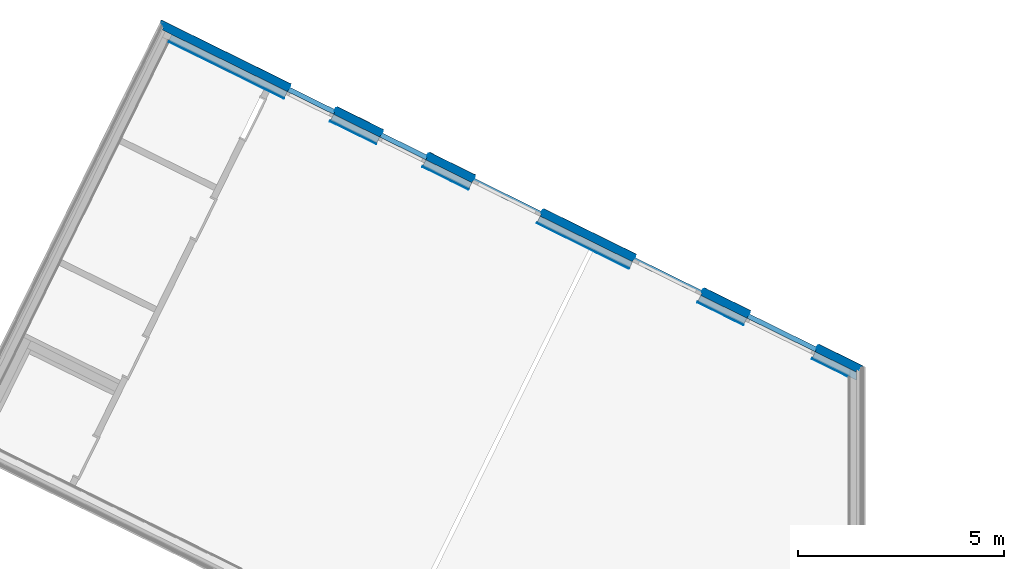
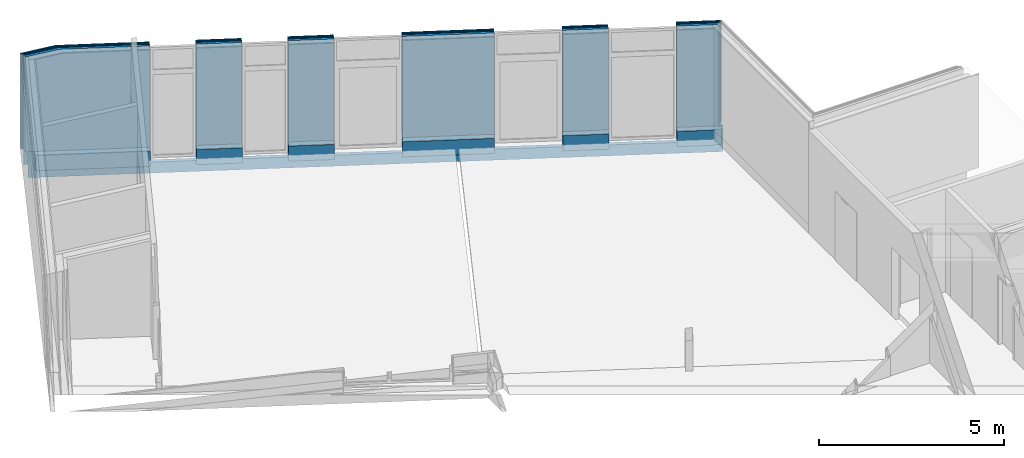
# One storey, part 6 of 23: 9 walls, 45 openings.
"""IFC4 building model written with IfcOpenShell, lengths in metres."""

import ifcopenshell
import ifcopenshell.guid

model = None  # the IFC model being written
_history = None  # IfcOwnerHistory: only IFC2X3 demands one
_inside = {}  # id of a spatial element -> (the spatial element, [elements in it])
_under = {}  # id of a project, library or spatial element -> (it, [spatial elements below it])
_declared = {}  # id of a project -> (the project, [libraries it declares])
_typed = {}  # id of a type object -> (the type object, [elements of that type])
_made_of = {}  # id of a material, layer set ... -> (it, [elements and type objects made of it])


def new_model(schema):
    """Start an empty IFC model of exactly this schema.

    Asked for "IFC4X3", IfcOpenShell would pick the latest addendum, in which some entities
    have other attributes; the version numbers below select the first issue.
    IFC2X3 requires an IfcOwnerHistory on every rooted entity: one is made here for all.
    """
    global model, _history
    if schema == "IFC4X3":
        model = ifcopenshell.file(schema_version=(4, 3, 0, 0))
    else:
        model = ifcopenshell.file(schema=schema)
    _inside.clear()
    _under.clear()
    _declared.clear()
    _typed.clear()
    _made_of.clear()
    _history = None
    if model.schema == "IFC2X3":
        org = make("IfcOrganization", Name="unknown")
        user = make(
            "IfcPersonAndOrganization",
            ThePerson=make("IfcPerson", FamilyName="unknown"),
            TheOrganization=org,
        )
        app = make(
            "IfcApplication",
            ApplicationDeveloper=org,
            Version="unknown",
            ApplicationFullName="unknown",
            ApplicationIdentifier="unknown",
        )
        _history = make(
            "IfcOwnerHistory",
            OwningUser=user,
            OwningApplication=app,
            ChangeAction="ADDED",
            CreationDate=0,
        )
    return model


def make(cls, **values):
    """One entity of the class cls with the attributes given. An attribute that is None is left unset."""
    return model.create_entity(
        cls, **{name: value for name, value in values.items() if value is not None}
    )


def entity(cls, *values):
    """Any entity or typed value of the class cls, its attributes in the order of the schema. None: left unset."""
    e = model.create_entity(cls)
    for i, value in enumerate(values):
        if value is not None:
            e[i] = value
    return e


def rooted(cls, **values):
    """An entity with a GlobalId (a new one), such as an element, a storey or a relation."""
    return make(cls, GlobalId=ifcopenshell.guid.new(), OwnerHistory=_history, **values)


def si_unit(unit_type, name, prefix=None):
    """IfcSIUnit, for example si_unit("LENGTHUNIT", "METRE", prefix="MILLI")."""
    return make("IfcSIUnit", UnitType=unit_type, Prefix=prefix, Name=name)


def converted_unit(unit_type, name, factor, base, dimensions=None, offset=None):
    """IfcConversionBasedUnit, such as the inch: factor (a typed value) times the base unit."""
    return make(
        "IfcConversionBasedUnit"
        if offset is None
        else "IfcConversionBasedUnitWithOffset",
        ConversionOffset=offset,
        Dimensions=None
        if dimensions is None
        else entity("IfcDimensionalExponents", *dimensions),
        UnitType=unit_type,
        Name=name,
        ConversionFactor=make(
            "IfcMeasureWithUnit", ValueComponent=factor, UnitComponent=base
        ),
    )


def derived_unit(unit_type, elements):
    """IfcDerivedUnit: a product of units, each with its exponent."""
    return make(
        "IfcDerivedUnit",
        Elements=[
            make("IfcDerivedUnitElement", Unit=unit, Exponent=power)
            for unit, power in elements
        ],
        UnitType=unit_type,
    )


def assignment(units):
    """IfcUnitAssignment: the units of a project."""
    return None if units is None else make("IfcUnitAssignment", Units=units)


def point(xyz):
    """IfcCartesianPoint."""
    return None if xyz is None else make("IfcCartesianPoint", Coordinates=xyz)


def direction(xyz):
    """IfcDirection."""
    return None if xyz is None else make("IfcDirection", DirectionRatios=xyz)


def frame(location, z_axis=None, x_axis=None):
    """IfcAxis2Placement3D, a coordinate frame: its origin and axes. An axis left out is left unset."""
    return make(
        "IfcAxis2Placement3D",
        Location=point(location),
        Axis=direction(z_axis),
        RefDirection=direction(x_axis),
    )


def origin():
    """The frame at (0, 0, 0) with its axes left unset."""
    return frame((0.0, 0.0, 0.0))


def origin_with_axes():
    """The frame at (0, 0, 0) with the z axis (0, 0, 1) and the x axis (1, 0, 0) written out."""
    return frame((0.0, 0.0, 0.0), z_axis=(0.0, 0.0, 1.0), x_axis=(1.0, 0.0, 0.0))


def place(relative_to, where):
    """IfcLocalPlacement: puts the frame where relative to a parent placement (None: the world)."""
    return make(
        "IfcLocalPlacement", PlacementRelTo=relative_to, RelativePlacement=where
    )


def context(
    kind, dimensions, precision=None, world=None, true_north=None, identifier=None
):
    """IfcGeometricRepresentationContext, for example the 3D "Model" context."""
    return make(
        "IfcGeometricRepresentationContext",
        ContextIdentifier=identifier,
        ContextType=kind,
        CoordinateSpaceDimension=dimensions,
        Precision=precision,
        WorldCoordinateSystem=world,
        TrueNorth=true_north,
    )


def subcontext(parent, identifier, kind, view, scale=None):
    """IfcGeometricRepresentationSubContext, for example "Body" below "Model"."""
    return make(
        "IfcGeometricRepresentationSubContext",
        ContextIdentifier=identifier,
        ContextType=kind,
        ParentContext=parent,
        TargetScale=scale,
        TargetView=view,
    )


def project(units=None, contexts=None):
    """IfcProject with its units and contexts."""
    return rooted(
        "IfcProject",
        Name="project",
        RepresentationContexts=contexts,
        UnitsInContext=assignment(units),
    )


def spatial(cls, under=None, at=None, **own):
    """A site, building, storey or space (cls), placed at a placement, below another one or the project."""
    s = rooted(cls, ObjectPlacement=at, **own)
    if under is not None:
        _under.setdefault(under.id(), (under, []))[1].append(s)
    return s


def polyline(points):
    """IfcPolyline through the points."""
    return make("IfcPolyline", Points=[point(p) for p in points])


def outline(outer, holes=None, kind="AREA"):
    """IfcArbitraryClosedProfileDef: a profile drawn as a closed curve; with holes, ...WithVoids."""
    if holes is None:
        return make("IfcArbitraryClosedProfileDef", ProfileType=kind, OuterCurve=outer)
    return make(
        "IfcArbitraryProfileDefWithVoids",
        ProfileType=kind,
        OuterCurve=outer,
        InnerCurves=holes,
    )


def extrude(swept, where, along, depth):
    """IfcExtrudedAreaSolid: the profile swept, set in the frame where, extruded along a direction by depth."""
    return make(
        "IfcExtrudedAreaSolid",
        SweptArea=swept,
        Position=where,
        ExtrudedDirection=direction(along),
        Depth=depth,
    )


def clip(a, b, op="DIFFERENCE"):
    """IfcBooleanClippingResult: the solid a cut by the half space b."""
    return make(
        "IfcBooleanClippingResult", Operator=op, FirstOperand=a, SecondOperand=b
    )


def bounded_halfspace(plane, agree, where, boundary):
    """IfcPolygonalBoundedHalfSpace: a half space limited to a polygon's prism."""
    return make(
        "IfcPolygonalBoundedHalfSpace",
        BaseSurface=make("IfcPlane", Position=plane),
        AgreementFlag=agree,
        Position=where,
        PolygonalBoundary=boundary,
    )


def shape(context_of_items, identifier, shape_type, items):
    """IfcShapeRepresentation: the items that make up one representation, for example the "Body"."""
    return make(
        "IfcShapeRepresentation",
        ContextOfItems=context_of_items,
        RepresentationIdentifier=identifier,
        RepresentationType=shape_type,
        Items=items,
    )


def material(Name=None, Category=None):
    """IfcMaterial."""
    return make("IfcMaterial", Name=Name, Category=Category)


def made_of(thing, what):
    """Note that an element or type object is made of a material, layer set ...; save() writes the relation."""
    if what is not None:
        _made_of.setdefault(what.id(), (what, []))[1].append(thing)
    return thing


def element(
    cls,
    number,
    at=None,
    inside=None,
    cuts=None,
    type_object=None,
    material=None,
    context=None,
    identifier="Body",
    shape_type=None,
    held_by="IfcProductDefinitionShape",
    body=None,
    shapes=None,
    **own,
):
    """One element of the class cls, such as IfcWall. Its Tag is "e" and its number.

    at: its placement. inside: the storey or other place that contains it. cuts: it is an
    opening in that element (IfcRelVoidsElement). A single representation is given by context,
    identifier, shape_type and body (its items); several are given by shapes. held_by: the class
    of the entity that holds the representations. save() writes the other relations.
    """
    e = rooted(cls, Tag="e%d" % number, ObjectPlacement=at, **own)
    if body is not None:
        shapes = [shape(context, identifier, shape_type, body)]
    if shapes is not None:
        e.Representation = make(held_by, Representations=shapes)
    if inside is not None:
        _inside.setdefault(inside.id(), (inside, []))[1].append(e)
    if cuts is not None:
        rooted(
            "IfcRelVoidsElement", RelatingBuildingElement=cuts, RelatedOpeningElement=e
        )
    if type_object is not None:
        _typed.setdefault(type_object.id(), (type_object, []))[1].append(e)
    return made_of(e, material)


def aggregate(whole, parts):
    """IfcRelAggregates: a whole, such as a stair, and the parts it consists of."""
    return rooted("IfcRelAggregates", RelatingObject=whole, RelatedObjects=parts)


def save(model, path):
    """Write the relations noted so far, then the file.

    IfcRelAggregates (storeys below a building ...), IfcRelContainedInSpatialStructure (elements
    in a storey), IfcRelDefinesByType, IfcRelAssociatesMaterial and IfcRelDeclares: one each for
    every whole, place, type object, material and project.
    """
    for whole, parts in _under.values():
        aggregate(whole, parts)
    for where, things in _inside.values():
        rooted(
            "IfcRelContainedInSpatialStructure",
            RelatedElements=things,
            RelatingStructure=where,
        )
    for kind, things in _typed.values():
        rooted("IfcRelDefinesByType", RelatedObjects=things, RelatingType=kind)
    for what, things in _made_of.values():
        rooted("IfcRelAssociatesMaterial", RelatedObjects=things, RelatingMaterial=what)
    for by, libraries in _declared.values():
        rooted("IfcRelDeclares", RelatingContext=by, RelatedDefinitions=libraries)
    model.write(path)


model = new_model("IFC4")

# Units and contexts
model_context = context("Model", 3, precision=1e-05, world=origin())
body_context = subcontext(model_context, "Body", "Model", "MODEL_VIEW")
ifc_project = project(units=[si_unit("LENGTHUNIT", "METRE"), si_unit("AREAUNIT", "SQUARE_METRE"), si_unit("VOLUMEUNIT", "CUBIC_METRE"), si_unit("MASSUNIT", "GRAM", prefix="KILO"), converted_unit("PLANEANGLEUNIT", "DEGREE", entity("IfcPlaneAngleMeasure", 0.0174532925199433), si_unit("PLANEANGLEUNIT", "RADIAN"), dimensions=[0, 0, 0, 0, 0, 0, 0]), derived_unit("THERMALTRANSMITTANCEUNIT", [(si_unit("POWERUNIT", "WATT"), 1), (si_unit("THERMODYNAMICTEMPERATUREUNIT", "KELVIN"), -1), (si_unit("LENGTHUNIT", "METRE"), -2)]), derived_unit("VOLUMETRICFLOWRATEUNIT", [(si_unit("LENGTHUNIT", "METRE"), 3), (converted_unit("TIMEUNIT", "hour", entity("IfcTimeMeasure", 3600.0), si_unit("TIMEUNIT", "SECOND"), dimensions=[0, 0, 1, 0, 0, 0, 0]), -1), (si_unit("LENGTHUNIT", "METRE"), -1)])], contexts=[model_context])

# Site, building, storey
site_placement = place(None, origin())
site = spatial("IfcSite", under=ifc_project, at=site_placement, Name="Psychiatrie Neubau Wunstorf", CompositionType="ELEMENT")
building_placement = place(site_placement, origin())
building = spatial("IfcBuilding", under=site, at=building_placement, Name="Neubau H1 Sozialzentrum", CompositionType="ELEMENT")
storey_placement = place(building_placement, frame((0.0, 0.0, 0.7)))
storey = spatial("IfcBuildingStorey", under=building, at=storey_placement, Name="H1 Ebene 0", CompositionType="ELEMENT", Elevation=0.7)

# Wall, openings
ifc_material_1 = material(Name="WA-DL")
wall_1_placement = place(storey_placement, frame((-21.8447318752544, 41.6602356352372, 0.3), z_axis=(0.0, 0.0, 1.0), x_axis=(0.896905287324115, -0.442222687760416, 0.0)))
wall_1 = element("IfcWall", 1, at=wall_1_placement, inside=storey, material=ifc_material_1, context=body_context, shape_type="Clipping", body=[
    clip(extrude(outline(polyline([(-3.67924592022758, 7.46215698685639), (15.1345650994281, 7.46215698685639), (15.0951207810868, 7.54215699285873), (-3.67924592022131, 7.54215699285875), (-3.67924592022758, 7.46215698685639)])), frame((3.67924592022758, -7.46215698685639, 0.0), z_axis=(0.0, 0.0, 1.0), x_axis=(1.0, 0.0, 0.0)), (0.0, 0.0, 1.0), 3.35), bounded_halfspace(frame((0.454499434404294, 0.040000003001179, 3.24546513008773), z_axis=(0.222899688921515, 0.10537813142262, -0.96912908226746), x_axis=(-0.427404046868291, 0.904060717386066, 0.0)), True, origin_with_axes(), polyline([(0.927909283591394, 0.0), (0.890088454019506, 0.0800000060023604), (0.0, 0.0800000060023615), (0.0, 0.0), (0.927909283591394, 0.0)]))),
])
opening_1_placement = place(wall_1_placement, frame((17.689869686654, 0.0800000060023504, -0.5), z_axis=(0.0, -1.0, 0.0), x_axis=(0.0, 0.0, 1.0)))
element("IfcOpeningElement", 2, at=opening_1_placement, cuts=wall_1, Name="Fensteröffnung", ObjectType="Opening", context=body_context, shape_type="SweptSolid", body=[
    extrude(outline(polyline([(3.85, 1.85), (3.85, 0.0), (0.0, 0.0), (0.0, 1.85), (3.85, 1.85)])), origin_with_axes(), (0.0, 0.0, 1.0), 0.0800000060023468),
])
opening_2_placement = place(wall_1_placement, frame((7.13986968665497, 0.0800000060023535, -0.5), z_axis=(0.0, -1.0, 0.0), x_axis=(0.0, 0.0, 1.0)))
element("IfcOpeningElement", 3, at=opening_2_placement, cuts=wall_1, Name="Fensteröffnung", ObjectType="Opening", context=body_context, shape_type="SweptSolid", body=[
    extrude(outline(polyline([(3.85, 1.25), (3.85, 0.0), (0.0, 0.0), (0.0, 1.25), (3.85, 1.25)])), origin_with_axes(), (0.0, 0.0, 1.0), 0.0800000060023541),
])
opening_3_placement = place(wall_1_placement, frame((4.63986968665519, 0.0800000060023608, -0.5), z_axis=(2.27373658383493e-14, -1.0, 0.0), x_axis=(0.0, 0.0, 1.0)))
element("IfcOpeningElement", 4, at=opening_3_placement, cuts=wall_1, Name="Fensteröffnung", ObjectType="Opening", context=body_context, shape_type="SweptSolid", body=[
    extrude(outline(polyline([(3.85, 1.25000000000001), (3.85, 0.0), (0.0, 0.0), (0.0, 1.25000000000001), (3.85, 1.25000000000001)])), origin_with_axes(), (0.0, 0.0, 1.0), 0.0800000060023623),
])
opening_4_placement = place(wall_1_placement, frame((12.7398668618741, 0.0, -0.5), z_axis=(0.0, 1.0, 0.0), x_axis=(0.0, 0.0, 1.0)))
element("IfcOpeningElement", 5, at=opening_4_placement, cuts=wall_1, Name="Türöffnung", ObjectType="Opening", context=body_context, shape_type="SweptSolid", body=[
    extrude(outline(polyline([(3.85, 1.85000000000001), (3.85, 0.0), (0.0, 0.0), (0.0, 1.85000000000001), (3.85, 1.85000000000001)])), origin_with_axes(), (0.0, 0.0, 1.0), 0.0800000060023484),
])
opening_5_placement = place(wall_1_placement, frame((8.38986686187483, 0.0, -0.5), z_axis=(-2.27373658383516e-14, 1.0, 0.0), x_axis=(0.0, 0.0, 1.0)))
element("IfcOpeningElement", 6, at=opening_5_placement, cuts=wall_1, Name="Türöffnung", ObjectType="Opening", context=body_context, shape_type="SweptSolid", body=[
    extrude(outline(polyline([(3.85, 1.85), (3.85, 0.0), (0.0, 0.0), (0.0, 1.85), (3.85, 1.85)])), origin_with_axes(), (0.0, 0.0, 1.0), 0.0800000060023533),
])

ifc_material_2 = material(Name="WA-LB")
wall_2_placement = place(storey_placement, frame((-21.8416426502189, 41.7479080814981, 0.3), z_axis=(0.0, 0.0, 1.0), x_axis=(0.896905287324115, -0.442222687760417, 0.0)))
wall_2 = element("IfcWall", 7, at=wall_2_placement, inside=storey, material=ifc_material_2, context=body_context, shape_type="Clipping", body=[
    clip(extrude(outline(polyline([(-3.69601551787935, 7.49616867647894), (15.2035467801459, 7.49616867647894), (15.1857968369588, 7.53216867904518), (-3.69601551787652, 7.53216867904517), (-3.69601551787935, 7.49616867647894)])), frame((3.69601551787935, -7.49616867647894, 0.0), z_axis=(0.0, 0.0, 1.0), x_axis=(1.0, 0.0, 0.0)), (0.0, 0.0, 1.0), 3.35), bounded_halfspace(frame((0.458789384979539, 0.01800000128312, 3.24447844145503), z_axis=(0.222899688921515, 0.105378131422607, -0.969129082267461), x_axis=(-0.427404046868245, 0.904060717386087, 0.0)), True, origin_with_axes(), polyline([(0.926088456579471, 0.0), (0.909069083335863, 0.0360000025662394), (0.0, 0.0360000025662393), (0.0, 0.0), (0.926088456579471, 0.0)]))),
])
opening_6_placement = place(wall_2_placement, frame((17.725869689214, 0.0360000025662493, -0.5), z_axis=(0.0, -1.0, 0.0), x_axis=(0.0, 0.0, 1.0)))
element("IfcOpeningElement", 8, at=opening_6_placement, cuts=wall_2, Name="Fensteröffnung", ObjectType="Opening", context=body_context, shape_type="SweptSolid", body=[
    extrude(outline(polyline([(3.85, 1.85), (3.85, 0.0), (0.0, 0.0), (0.0, 1.85), (3.85, 1.85)])), origin_with_axes(), (0.0, 0.0, 1.0), 0.0360000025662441),
])
opening_7_placement = place(wall_2_placement, frame((7.17586968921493, 0.0360000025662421, -0.5), z_axis=(0.0, -1.0, 0.0), x_axis=(0.0, 0.0, 1.0)))
element("IfcOpeningElement", 9, at=opening_7_placement, cuts=wall_2, Name="Fensteröffnung", ObjectType="Opening", context=body_context, shape_type="SweptSolid", body=[
    extrude(outline(polyline([(3.85, 1.25000000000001), (3.85, 0.0), (0.0, 0.0), (0.0, 1.25000000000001), (3.85, 1.25000000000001)])), origin_with_axes(), (0.0, 0.0, 1.0), 0.0360000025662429),
])
opening_8_placement = place(wall_2_placement, frame((4.67586968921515, 0.0360000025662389, -0.5), z_axis=(-2.5263739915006e-14, -1.0, 0.0), x_axis=(0.0, 0.0, 1.0)))
element("IfcOpeningElement", 10, at=opening_8_placement, cuts=wall_2, Name="Fensteröffnung", ObjectType="Opening", context=body_context, shape_type="SweptSolid", body=[
    extrude(outline(polyline([(3.85, 1.25), (3.85, 0.0), (0.0, 0.0), (0.0, 1.25), (3.85, 1.25)])), origin_with_axes(), (0.0, 0.0, 1.0), 0.0360000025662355),
])
opening_9_placement = place(wall_2_placement, frame((12.7758668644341, 0.0, -0.5), z_axis=(0.0, 1.0, 0.0), x_axis=(0.0, 0.0, 1.0)))
element("IfcOpeningElement", 11, at=opening_9_placement, cuts=wall_2, Name="Türöffnung", ObjectType="Opening", context=body_context, shape_type="SweptSolid", body=[
    extrude(outline(polyline([(3.85, 1.85000000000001), (3.85, 0.0), (0.0, 0.0), (0.0, 1.85000000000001), (3.85, 1.85000000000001)])), origin_with_axes(), (0.0, 0.0, 1.0), 0.0360000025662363),
])
opening_10_placement = place(wall_2_placement, frame((8.42586686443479, 0.0, -0.5), z_axis=(0.0, 1.0, 0.0), x_axis=(0.0, 0.0, 1.0)))
element("IfcOpeningElement", 12, at=opening_10_placement, cuts=wall_2, Name="Türöffnung", ObjectType="Opening", context=body_context, shape_type="SweptSolid", body=[
    extrude(outline(polyline([(3.85, 1.85000000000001), (3.85, 0.0), (0.0, 0.0), (0.0, 1.85000000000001), (3.85, 1.85000000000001)])), origin_with_axes(), (0.0, 0.0, 1.0), 0.0360000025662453),
])

ifc_material_3 = material(Name="WA-KL")
wall_3_placement = place(storey_placement, frame((-21.8472477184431, 41.7908097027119, 0.3), z_axis=(0.0, 0.0, 1.0), x_axis=(0.896905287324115, -0.442222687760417, 0.0)))
wall_3 = element("IfcWall", 13, at=wall_3_placement, inside=storey, material=ifc_material_3, context=body_context, shape_type="Clipping", body=[
    clip(extrude(outline(polyline([(-3.70508707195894, 7.51456738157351), (15.2408625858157, 7.51456738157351), (15.229029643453, 7.53856666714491), (-3.70508707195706, 7.53856666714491), (-3.70508707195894, 7.51456738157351)])), frame((3.70508707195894, -7.51456738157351, 0.0), z_axis=(0.0, 0.0, 1.0), x_axis=(1.0, 0.0, 0.0)), (0.0, 0.0, 1.0), 3.35), bounded_halfspace(frame((0.463697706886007, 0.0119996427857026, 3.24334952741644), z_axis=(0.222899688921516, 0.105378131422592, -0.969129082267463), x_axis=(-0.427404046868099, 0.904060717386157, 0.0)), True, origin_with_axes(), polyline([(0.933068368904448, 0.0), (0.921722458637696, 0.0239992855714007), (0.0, 0.0239992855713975), (0.0, 0.0), (0.933068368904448, 0.0)]))),
])
opening_11_placement = place(wall_3_placement, frame((17.7498689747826, 0.0239992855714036, -0.5), z_axis=(0.0, -1.0, 0.0), x_axis=(0.0, 0.0, 1.0)))
element("IfcOpeningElement", 14, at=opening_11_placement, cuts=wall_3, Name="Fensteröffnung", ObjectType="Opening", context=body_context, shape_type="SweptSolid", body=[
    extrude(outline(polyline([(3.85, 1.85), (3.85, 0.0), (0.0, 0.0), (0.0, 1.85), (3.85, 1.85)])), origin_with_axes(), (0.0, 0.0, 1.0), 0.0239992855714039),
])
opening_12_placement = place(wall_3_placement, frame((7.19986897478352, 0.0239992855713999, -0.5), z_axis=(0.0, -1.0, 0.0), x_axis=(0.0, 0.0, 1.0)))
element("IfcOpeningElement", 15, at=opening_12_placement, cuts=wall_3, Name="Fensteröffnung", ObjectType="Opening", context=body_context, shape_type="SweptSolid", body=[
    extrude(outline(polyline([(3.85, 1.25), (3.85, 0.0), (0.0, 0.0), (0.0, 1.25), (3.85, 1.25)])), origin_with_axes(), (0.0, 0.0, 1.0), 0.0239992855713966),
])
opening_13_placement = place(wall_3_placement, frame((4.69986897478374, 0.0239992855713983, -0.5), z_axis=(7.57934813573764e-14, -1.0, 0.0), x_axis=(0.0, 0.0, 1.0)))
element("IfcOpeningElement", 16, at=opening_13_placement, cuts=wall_3, Name="Fensteröffnung", ObjectType="Opening", context=body_context, shape_type="SweptSolid", body=[
    extrude(outline(polyline([(3.85, 1.25000000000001), (3.85, 0.0), (0.0, 0.0), (0.0, 1.25000000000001), (3.85, 1.25000000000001)])), origin_with_axes(), (0.0, 0.0, 1.0), 0.023999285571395),
])
opening_14_placement = place(wall_3_placement, frame((12.7998661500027, 0.0, -0.5), z_axis=(-7.57934813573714e-14, 1.0, 0.0), x_axis=(0.0, 0.0, 1.0)))
element("IfcOpeningElement", 17, at=opening_14_placement, cuts=wall_3, Name="Türöffnung", ObjectType="Opening", context=body_context, shape_type="SweptSolid", body=[
    extrude(outline(polyline([(3.85, 1.85000000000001), (3.85, 0.0), (0.0, 0.0), (0.0, 1.85000000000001), (3.85, 1.85000000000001)])), origin_with_axes(), (0.0, 0.0, 1.0), 0.0239992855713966),
])
opening_15_placement = place(wall_3_placement, frame((8.44986615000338, 0.0, -0.5), z_axis=(7.57934813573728e-14, 1.0, 0.0), x_axis=(0.0, 0.0, 1.0)))
element("IfcOpeningElement", 18, at=opening_15_placement, cuts=wall_3, Name="Türöffnung", ObjectType="Opening", context=body_context, shape_type="SweptSolid", body=[
    extrude(outline(polyline([(3.85, 1.85), (3.85, 0.0), (0.0, 0.0), (0.0, 1.85), (3.85, 1.85)])), origin_with_axes(), (0.0, 0.0, 1.0), 0.023999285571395),
])

ifc_material_4 = material(Name="WA-TL")
wall_4_placement = place(storey_placement, frame((-21.8581604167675, 41.8229481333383, 0.3), z_axis=(0.0, 0.0, 1.0), x_axis=(0.896905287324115, -0.442222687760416, 0.0)))
wall_4 = element("IfcWall", 19, at=wall_4_placement, inside=storey, material=ifc_material_4, context=body_context, shape_type="Clipping", body=[
    clip(extrude(outline(polyline([(-3.71269942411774, 7.53000656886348), (15.2721759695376, 7.53000656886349), (15.2603426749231, 7.55400656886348), (-3.71269942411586, 7.55400656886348), (-3.71269942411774, 7.53000656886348)])), frame((3.71269942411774, -7.53000656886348, 0.0), z_axis=(0.0, 0.0, 1.0), x_axis=(1.0, 0.0, 0.0)), (0.0, 0.0, 1.0), 3.35), bounded_halfspace(frame((0.47002466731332, 0.0119999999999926, 3.24189432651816), z_axis=(0.222899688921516, 0.105378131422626, -0.969129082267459), x_axis=(-0.427404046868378, 0.904060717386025, 0.0)), True, origin_with_axes(), polyline([(0.945722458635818, 0.0), (0.934376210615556, 0.023999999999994), (0.0, 0.0239999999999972), (0.0, 0.0), (0.945722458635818, 0.0)]))),
])
opening_16_placement = place(wall_4_placement, frame((17.7738689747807, 0.0239999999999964, -0.5), z_axis=(0.0, -1.0, 0.0), x_axis=(0.0, 0.0, 1.0)))
element("IfcOpeningElement", 20, at=opening_16_placement, cuts=wall_4, Name="Fensteröffnung", ObjectType="Opening", context=body_context, shape_type="SweptSolid", body=[
    extrude(outline(polyline([(3.85, 1.85), (3.85, 0.0), (0.0, 0.0), (0.0, 1.85), (3.85, 1.85)])), origin_with_axes(), (0.0, 0.0, 1.0), 0.0239999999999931),
])
opening_17_placement = place(wall_4_placement, frame((7.22386897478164, 0.0240000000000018, -0.5), z_axis=(-7.57912251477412e-14, -1.0, 0.0), x_axis=(0.0, 0.0, 1.0)))
element("IfcOpeningElement", 21, at=opening_17_placement, cuts=wall_4, Name="Fensteröffnung", ObjectType="Opening", context=body_context, shape_type="SweptSolid", body=[
    extrude(outline(polyline([(3.85, 1.25), (3.85, 0.0), (0.0, 0.0), (0.0, 1.25), (3.85, 1.25)])), origin_with_axes(), (0.0, 0.0, 1.0), 0.024000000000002),
])
opening_18_placement = place(wall_4_placement, frame((4.72386897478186, 0.0239999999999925, -0.5), z_axis=(-3.78956125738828e-14, -1.0, 0.0), x_axis=(0.0, 0.0, 1.0)))
element("IfcOpeningElement", 22, at=opening_18_placement, cuts=wall_4, Name="Fensteröffnung", ObjectType="Opening", context=body_context, shape_type="SweptSolid", body=[
    extrude(outline(polyline([(3.85, 1.25), (3.85, 0.0), (0.0, 0.0), (0.0, 1.25), (3.85, 1.25)])), origin_with_axes(), (0.0, 0.0, 1.0), 0.0239999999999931),
])
opening_19_placement = place(wall_4_placement, frame((12.8238661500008, 0.0, -0.5), z_axis=(-7.57912251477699e-14, 1.0, 0.0), x_axis=(0.0, 0.0, 1.0)))
element("IfcOpeningElement", 23, at=opening_19_placement, cuts=wall_4, Name="Türöffnung", ObjectType="Opening", context=body_context, shape_type="SweptSolid", body=[
    extrude(outline(polyline([(3.85, 1.85000000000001), (3.85, 0.0), (0.0, 0.0), (0.0, 1.85000000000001), (3.85, 1.85000000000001)])), origin_with_axes(), (0.0, 0.0, 1.0), 0.0239999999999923),
])
opening_20_placement = place(wall_4_placement, frame((8.4738661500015, 0.0, -0.5), z_axis=(7.57912251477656e-14, 1.0, 0.0), x_axis=(0.0, 0.0, 1.0)))
element("IfcOpeningElement", 24, at=opening_20_placement, cuts=wall_4, Name="Türöffnung", ObjectType="Opening", context=body_context, shape_type="SweptSolid", body=[
    extrude(outline(polyline([(3.85, 1.85000000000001), (3.85, 0.0), (0.0, 0.0), (0.0, 1.85000000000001), (3.85, 1.85000000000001)])), origin_with_axes(), (0.0, 0.0, 1.0), 0.0239999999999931),
])

ifc_material_5 = material(Name="WA-HS")
wall_5_placement = place(storey_placement, frame((-21.8852170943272, 41.8630472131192, 0.3), z_axis=(0.0, 0.0, 1.0), x_axis=(0.896905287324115, -0.442222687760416, 0.0)))
wall_5 = element("IfcWall", 25, at=wall_5_placement, inside=storey, material=ifc_material_5, context=body_context, shape_type="Clipping", body=[
    clip(extrude(outline(polyline([(-3.72383180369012, 7.55258499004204), (15.3179689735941, 7.55258499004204), (15.2972607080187, 7.59458499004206), (-3.72383180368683, 7.59458499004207), (-3.72383180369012, 7.55258499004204)])), frame((3.72383180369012, -7.55258499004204, 0.0), z_axis=(0.0, 0.0, 1.0), x_axis=(1.0, 0.0, 0.0)), (0.0, 0.0, 1.0), 3.35), bounded_halfspace(frame((0.483224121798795, 0.021000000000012, 3.23885845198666), z_axis=(0.222899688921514, 0.105378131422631, -0.969129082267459), x_axis=(-0.427404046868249, 0.904060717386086, 0.0)), True, origin_with_axes(), polyline([(0.976376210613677, 0.0), (0.956520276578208, 0.0420000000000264), (0.0, 0.0420000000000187), (0.0, 0.0), (0.976376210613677, 0.0)]))),
])
opening_21_placement = place(wall_5_placement, frame((17.8158689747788, 0.0420000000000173, -0.5), z_axis=(0.0, -1.0, 0.0), x_axis=(0.0, 0.0, 1.0)))
element("IfcOpeningElement", 26, at=opening_21_placement, cuts=wall_5, Name="Fensteröffnung", ObjectType="Opening", context=body_context, shape_type="SweptSolid", body=[
    extrude(outline(polyline([(3.85, 1.85), (3.85, 0.0), (0.0, 0.0), (0.0, 1.85), (3.85, 1.85)])), origin_with_axes(), (0.0, 0.0, 1.0), 0.0420000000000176),
])
opening_22_placement = place(wall_5_placement, frame((7.26586897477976, 0.0420000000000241, -0.5), z_axis=(0.0, -1.0, 0.0), x_axis=(0.0, 0.0, 1.0)))
element("IfcOpeningElement", 27, at=opening_22_placement, cuts=wall_5, Name="Fensteröffnung", ObjectType="Opening", context=body_context, shape_type="SweptSolid", body=[
    extrude(outline(polyline([(3.85, 1.25), (3.85, 0.0), (0.0, 0.0), (0.0, 1.25), (3.85, 1.25)])), origin_with_axes(), (0.0, 0.0, 1.0), 0.0420000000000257),
])
opening_23_placement = place(wall_5_placement, frame((4.76586897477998, 0.0420000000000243, -0.5), z_axis=(0.0, -1.0, 0.0), x_axis=(0.0, 0.0, 1.0)))
element("IfcOpeningElement", 28, at=opening_23_placement, cuts=wall_5, Name="Fensteröffnung", ObjectType="Opening", context=body_context, shape_type="SweptSolid", body=[
    extrude(outline(polyline([(3.85, 1.25), (3.85, 0.0), (0.0, 0.0), (0.0, 1.25), (3.85, 1.25)])), origin_with_axes(), (0.0, 0.0, 1.0), 0.0420000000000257),
])
opening_24_placement = place(wall_5_placement, frame((12.8658661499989, 0.0, -0.5), z_axis=(0.0, 1.0, 0.0), x_axis=(0.0, 0.0, 1.0)))
element("IfcOpeningElement", 29, at=opening_24_placement, cuts=wall_5, Name="Türöffnung", ObjectType="Opening", context=body_context, shape_type="SweptSolid", body=[
    extrude(outline(polyline([(3.85, 1.85000000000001), (3.85, 0.0), (0.0, 0.0), (0.0, 1.85000000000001), (3.85, 1.85000000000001)])), origin_with_axes(), (0.0, 0.0, 1.0), 0.0420000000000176),
])
opening_25_placement = place(wall_5_placement, frame((8.51586614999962, 0.0, -0.5), z_axis=(0.0, 1.0, 0.0), x_axis=(0.0, 0.0, 1.0)))
element("IfcOpeningElement", 30, at=opening_25_placement, cuts=wall_5, Name="Türöffnung", ObjectType="Opening", context=body_context, shape_type="SweptSolid", body=[
    extrude(outline(polyline([(3.85, 1.85), (3.85, 0.0), (0.0, 0.0), (0.0, 1.85), (3.85, 1.85)])), origin_with_axes(), (0.0, 0.0, 1.0), 0.0420000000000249),
])

ifc_material_6 = material(Name="WA-LB")
wall_6_placement = place(storey_placement, frame((-21.6838616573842, 41.3623887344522, -0.2), z_axis=(0.0, 0.0, 1.0), x_axis=(0.896905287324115, -0.442222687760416, 0.0)))
wall_6 = element("IfcWall", 31, at=wall_6_placement, inside=storey, material=ifc_material_6, context=body_context, shape_type="SweptSolid", body=[
    extrude(outline(polyline([(-3.60601289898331, 7.31362755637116), (14.8333213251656, 7.31362755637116), (14.8229671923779, 7.33462755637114), (-3.60601289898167, 7.33462755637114), (-3.60601289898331, 7.31362755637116)])), frame((3.60601289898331, -7.31362755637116, 0.0), z_axis=(0.0, 0.0, 1.0), x_axis=(1.0, 0.0, 0.0)), (0.0, 0.0, 1.0), 0.5),
])
opening_26_placement = place(wall_6_placement, frame((14.3138668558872, 0.0210000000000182, 0.0), z_axis=(0.0, -1.0, 0.0), x_axis=(0.0, 0.0, 1.0)))
element("IfcOpeningElement", 32, at=opening_26_placement, cuts=wall_6, Name="Wanddurchbruch", ObjectType="Opening", context=body_context, shape_type="SweptSolid", body=[
    extrude(outline(polyline([(0.5, 1.85), (0.5, 0.0), (0.0, 0.0), (0.0, 1.85), (0.5, 1.85)])), origin_with_axes(), (0.0, 0.0, 1.0), 0.0209999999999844),
])
opening_27_placement = place(wall_6_placement, frame((17.4138696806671, 0.0210000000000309, 0.0), z_axis=(0.0, -1.0, 0.0), x_axis=(0.0, 0.0, 1.0)))
element("IfcOpeningElement", 33, at=opening_27_placement, cuts=wall_6, Name="Wanddurchbruch", ObjectType="Opening", context=body_context, shape_type="SweptSolid", body=[
    extrude(outline(polyline([(0.5, 1.85), (0.5, 0.0), (0.0, 0.0), (0.0, 1.85), (0.5, 1.85)])), origin_with_axes(), (0.0, 0.0, 1.0), 0.0209999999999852),
])
opening_28_placement = place(wall_6_placement, frame((9.96386685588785, 0.0210000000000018, 0.0), z_axis=(0.0, -1.0, 0.0), x_axis=(0.0, 0.0, 1.0)))
element("IfcOpeningElement", 34, at=opening_28_placement, cuts=wall_6, Name="Wanddurchbruch", ObjectType="Opening", context=body_context, shape_type="SweptSolid", body=[
    extrude(outline(polyline([(0.5, 1.85), (0.5, 0.0), (0.0, 0.0), (0.0, 1.85), (0.5, 1.85)])), origin_with_axes(), (0.0, 0.0, 1.0), 0.0209999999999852),
])
opening_29_placement = place(wall_6_placement, frame((6.86386968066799, 0.0209999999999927, 0.0), z_axis=(-4.33092715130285e-14, -1.0, 0.0), x_axis=(0.0, 0.0, 1.0)))
element("IfcOpeningElement", 35, at=opening_29_placement, cuts=wall_6, Name="Wanddurchbruch", ObjectType="Opening", context=body_context, shape_type="SweptSolid", body=[
    extrude(outline(polyline([(0.5, 1.25), (0.5, 0.0), (0.0, 0.0), (0.0, 1.25), (0.5, 1.25)])), origin_with_axes(), (0.0, 0.0, 1.0), 0.0209999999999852),
])
opening_30_placement = place(wall_6_placement, frame((4.36386968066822, 0.0209999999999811, 0.0), z_axis=(-4.33092715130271e-14, -1.0, 0.0), x_axis=(0.0, 0.0, 1.0)))
element("IfcOpeningElement", 36, at=opening_30_placement, cuts=wall_6, Name="Wanddurchbruch", ObjectType="Opening", context=body_context, shape_type="SweptSolid", body=[
    extrude(outline(polyline([(0.5, 1.25), (0.5, 0.0), (0.0, 0.0), (0.0, 1.25), (0.5, 1.25)])), origin_with_axes(), (0.0, 0.0, 1.0), 0.0209999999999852),
])

ifc_material_7 = material(Name="WA-STB")
wall_7_placement = place(storey_placement, frame((-21.6934099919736, 41.3905104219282, -0.2), z_axis=(0.0, 0.0, 1.0), x_axis=(0.896905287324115, -0.442222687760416, 0.0)))
wall_7 = element("IfcWall", 37, at=wall_7_placement, inside=storey, material=ifc_material_7, context=body_context, shape_type="SweptSolid", body=[
    extrude(outline(polyline([(-3.64625175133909, 7.39523901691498), (14.9988437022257, 7.39523901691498), (14.912559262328, 7.57023901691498), (-3.64625175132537, 7.57023901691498), (-3.64625175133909, 7.39523901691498)])), frame((3.64625175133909, -7.39523901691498, 0.0), z_axis=(0.0, 0.0, 1.0), x_axis=(1.0, 0.0, 0.0)), (0.0, 0.0, 1.0), 0.5),
])
opening_31_placement = place(wall_7_placement, frame((14.3348668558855, 0.175000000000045, 0.0), z_axis=(-1.03942251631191e-14, -1.0, 0.0), x_axis=(0.0, 0.0, 1.0)))
element("IfcOpeningElement", 38, at=opening_31_placement, cuts=wall_7, Name="Wanddurchbruch", ObjectType="Opening", context=body_context, shape_type="SweptSolid", body=[
    extrude(outline(polyline([(0.5, 1.85), (0.5, 0.0), (0.0, 0.0), (0.0, 1.85), (0.5, 1.85)])), origin_with_axes(), (0.0, 0.0, 1.0), 0.175000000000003),
])
opening_32_placement = place(wall_7_placement, frame((17.4348696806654, 0.175000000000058, 0.0), z_axis=(0.0, -1.0, 0.0), x_axis=(0.0, 0.0, 1.0)))
element("IfcOpeningElement", 39, at=opening_32_placement, cuts=wall_7, Name="Wanddurchbruch", ObjectType="Opening", context=body_context, shape_type="SweptSolid", body=[
    extrude(outline(polyline([(0.5, 1.85), (0.5, 0.0), (0.0, 0.0), (0.0, 1.85), (0.5, 1.85)])), origin_with_axes(), (0.0, 0.0, 1.0), 0.175000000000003),
])
opening_33_placement = place(wall_7_placement, frame((9.98486685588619, 0.175000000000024, 0.0), z_axis=(0.0, -1.0, 0.0), x_axis=(0.0, 0.0, 1.0)))
element("IfcOpeningElement", 40, at=opening_33_placement, cuts=wall_7, Name="Wanddurchbruch", ObjectType="Opening", context=body_context, shape_type="SweptSolid", body=[
    extrude(outline(polyline([(0.5, 1.85), (0.5, 0.0), (0.0, 0.0), (0.0, 1.85), (0.5, 1.85)])), origin_with_axes(), (0.0, 0.0, 1.0), 0.175000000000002),
])
opening_34_placement = place(wall_7_placement, frame((6.88486968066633, 0.175000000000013, 0.0), z_axis=(5.19711258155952e-15, -1.0, 0.0), x_axis=(0.0, 0.0, 1.0)))
element("IfcOpeningElement", 41, at=opening_34_placement, cuts=wall_7, Name="Wanddurchbruch", ObjectType="Opening", context=body_context, shape_type="SweptSolid", body=[
    extrude(outline(polyline([(0.5, 1.25), (0.5, 0.0), (0.0, 0.0), (0.0, 1.25), (0.5, 1.25)])), origin_with_axes(), (0.0, 0.0, 1.0), 0.175000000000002),
])
opening_35_placement = place(wall_7_placement, frame((4.38486968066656, 0.174999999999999, 0.0), z_axis=(1.03942251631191e-14, -1.0, 0.0), x_axis=(0.0, 0.0, 1.0)))
element("IfcOpeningElement", 42, at=opening_35_placement, cuts=wall_7, Name="Wanddurchbruch", ObjectType="Opening", context=body_context, shape_type="SweptSolid", body=[
    extrude(outline(polyline([(0.5, 1.24999999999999), (0.5, 0.0), (0.0, 0.0), (0.0, 1.24999999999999), (0.5, 1.24999999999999)])), origin_with_axes(), (0.0, 0.0, 1.0), 0.175000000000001),
])

ifc_material_8 = material(Name="WA-DE")
wall_8_placement = place(storey_placement, frame((-21.7729794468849, 41.6248578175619, -0.56), z_axis=(0.0, 0.0, 1.0), x_axis=(0.896905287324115, -0.442222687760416, 0.0)))
wall_8 = element("IfcWall", 43, at=wall_8_placement, inside=storey, material=ifc_material_8, context=body_context, shape_type="SweptSolid", body=[
    extrude(outline(polyline([(-3.68976580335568, 7.48349315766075), (15.1778386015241, 7.48349315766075), (15.1186721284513, 7.60349315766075), (-3.68976580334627, 7.60349315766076), (-3.68976580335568, 7.48349315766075)])), frame((3.68976580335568, -7.48349315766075, 0.0), z_axis=(0.0, 0.0, 1.0), x_axis=(1.0, 0.0, 0.0)), (0.0, 0.0, 1.0), 0.86),
])
opening_36_placement = place(wall_8_placement, frame((14.5098668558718, 0.120000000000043, 0.36), z_axis=(-1.51582450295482e-14, -1.0, 0.0), x_axis=(0.0, 0.0, 1.0)))
element("IfcOpeningElement", 44, at=opening_36_placement, cuts=wall_8, Name="Wanddurchbruch", ObjectType="Opening", context=body_context, shape_type="SweptSolid", body=[
    extrude(outline(polyline([(0.5, 1.85), (0.5, 0.0), (0.0, 0.0), (0.0, 1.85), (0.5, 1.85)])), origin_with_axes(), (0.0, 0.0, 1.0), 0.120000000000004),
])
opening_37_placement = place(wall_8_placement, frame((17.6098696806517, 0.120000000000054, 0.36), z_axis=(0.0, -1.0, 0.0), x_axis=(0.0, 0.0, 1.0)))
element("IfcOpeningElement", 45, at=opening_37_placement, cuts=wall_8, Name="Wanddurchbruch", ObjectType="Opening", context=body_context, shape_type="SweptSolid", body=[
    extrude(outline(polyline([(0.5, 1.85), (0.5, 0.0), (0.0, 0.0), (0.0, 1.85), (0.5, 1.85)])), origin_with_axes(), (0.0, 0.0, 1.0), 0.120000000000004),
])
opening_38_placement = place(wall_8_placement, frame((10.1598668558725, 0.120000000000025, 0.36), z_axis=(1.51582450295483e-14, -1.0, 0.0), x_axis=(0.0, 0.0, 1.0)))
element("IfcOpeningElement", 46, at=opening_38_placement, cuts=wall_8, Name="Wanddurchbruch", ObjectType="Opening", context=body_context, shape_type="SweptSolid", body=[
    extrude(outline(polyline([(0.5, 1.85), (0.5, 0.0), (0.0, 0.0), (0.0, 1.85), (0.5, 1.85)])), origin_with_axes(), (0.0, 0.0, 1.0), 0.120000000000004),
])
opening_39_placement = place(wall_8_placement, frame((7.05986968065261, 0.120000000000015, 0.36), z_axis=(-7.57912251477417e-15, -1.0, 0.0), x_axis=(0.0, 0.0, 1.0)))
element("IfcOpeningElement", 47, at=opening_39_placement, cuts=wall_8, Name="Wanddurchbruch", ObjectType="Opening", context=body_context, shape_type="SweptSolid", body=[
    extrude(outline(polyline([(0.5, 1.25), (0.5, 0.0), (0.0, 0.0), (0.0, 1.25), (0.5, 1.25)])), origin_with_axes(), (0.0, 0.0, 1.0), 0.120000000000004),
])
opening_40_placement = place(wall_8_placement, frame((4.55986968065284, 0.120000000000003, 0.36), z_axis=(7.57912251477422e-15, -1.0, 0.0), x_axis=(0.0, 0.0, 1.0)))
element("IfcOpeningElement", 48, at=opening_40_placement, cuts=wall_8, Name="Wanddurchbruch", ObjectType="Opening", context=body_context, shape_type="SweptSolid", body=[
    extrude(outline(polyline([(0.5, 1.25), (0.5, 0.0), (0.0, 0.0), (0.0, 1.25), (0.5, 1.25)])), origin_with_axes(), (0.0, 0.0, 1.0), 0.120000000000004),
])

ifc_material_9 = material(Name="WA-LB")
wall_9_placement = place(storey_placement, frame((-21.8275413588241, 41.7855531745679, -0.2), z_axis=(0.0, 0.0, 1.0), x_axis=(0.896905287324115, -0.442222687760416, 0.0)))
wall_9 = element("IfcWall", 49, at=wall_9_placement, inside=storey, material=ifc_material_9, context=body_context, shape_type="SweptSolid", body=[
    extrude(outline(polyline([(-3.7049330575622, 7.51425501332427), (15.2402290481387, 7.51425501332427), (15.2328332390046, 7.52925501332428), (-3.70493305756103, 7.52925501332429), (-3.7049330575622, 7.51425501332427)])), frame((3.7049330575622, -7.51425501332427, 0.0), z_axis=(0.0, 0.0, 1.0), x_axis=(1.0, 0.0, 0.0)), (0.0, 0.0, 1.0), 0.5),
])
opening_41_placement = place(wall_9_placement, frame((14.6298668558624, 0.0150000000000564, 0.0), z_axis=(0.0, -1.0, 0.0), x_axis=(0.0, 0.0, 1.0)))
element("IfcOpeningElement", 50, at=opening_41_placement, cuts=wall_9, Name="Wanddurchbruch", ObjectType="Opening", context=body_context, shape_type="SweptSolid", body=[
    extrude(outline(polyline([(0.5, 1.85), (0.5, 0.0), (0.0, 0.0), (0.0, 1.85), (0.5, 1.85)])), origin_with_axes(), (0.0, 0.0, 1.0), 0.0150000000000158),
])
opening_42_placement = place(wall_9_placement, frame((17.7298696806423, 0.0150000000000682, 0.0), z_axis=(0.0, -1.0, 0.0), x_axis=(0.0, 0.0, 1.0)))
element("IfcOpeningElement", 51, at=opening_42_placement, cuts=wall_9, Name="Wanddurchbruch", ObjectType="Opening", context=body_context, shape_type="SweptSolid", body=[
    extrude(outline(polyline([(0.5, 1.84999999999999), (0.5, 0.0), (0.0, 0.0), (0.0, 1.84999999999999), (0.5, 1.84999999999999)])), origin_with_axes(), (0.0, 0.0, 1.0), 0.0150000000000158),
])
opening_43_placement = place(wall_9_placement, frame((10.2798668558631, 0.0150000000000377, 0.0), z_axis=(-1.21265960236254e-13, -1.0, 0.0), x_axis=(0.0, 0.0, 1.0)))
element("IfcOpeningElement", 52, at=opening_43_placement, cuts=wall_9, Name="Wanddurchbruch", ObjectType="Opening", context=body_context, shape_type="SweptSolid", body=[
    extrude(outline(polyline([(0.5, 1.85), (0.5, 0.0), (0.0, 0.0), (0.0, 1.85), (0.5, 1.85)])), origin_with_axes(), (0.0, 0.0, 1.0), 0.0150000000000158),
])
opening_44_placement = place(wall_9_placement, frame((7.17986968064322, 0.0150000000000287, 0.0), z_axis=(0.0, -1.0, 0.0), x_axis=(0.0, 0.0, 1.0)))
element("IfcOpeningElement", 53, at=opening_44_placement, cuts=wall_9, Name="Wanddurchbruch", ObjectType="Opening", context=body_context, shape_type="SweptSolid", body=[
    extrude(outline(polyline([(0.5, 1.25), (0.5, 0.0), (0.0, 0.0), (0.0, 1.25), (0.5, 1.25)])), origin_with_axes(), (0.0, 0.0, 1.0), 0.0150000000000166),
])
opening_45_placement = place(wall_9_placement, frame((4.67986968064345, 0.0150000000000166, 0.0), z_axis=(0.0, -1.0, 0.0), x_axis=(0.0, 0.0, 1.0)))
element("IfcOpeningElement", 54, at=opening_45_placement, cuts=wall_9, Name="Wanddurchbruch", ObjectType="Opening", context=body_context, shape_type="SweptSolid", body=[
    extrude(outline(polyline([(0.5, 1.24999999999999), (0.5, 0.0), (0.0, 0.0), (0.0, 1.24999999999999), (0.5, 1.24999999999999)])), origin_with_axes(), (0.0, 0.0, 1.0), 0.0150000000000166),
])

save(model, "model.ifc")
